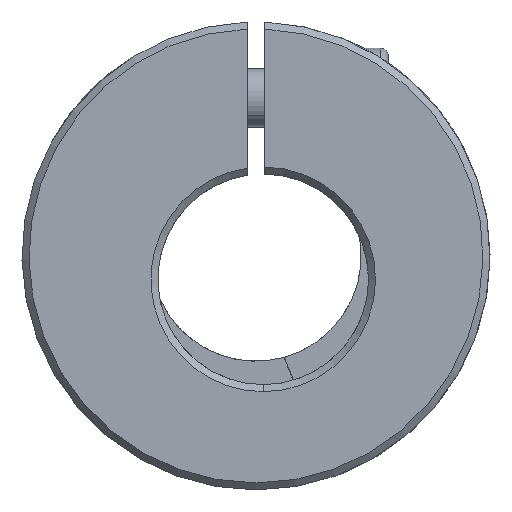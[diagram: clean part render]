
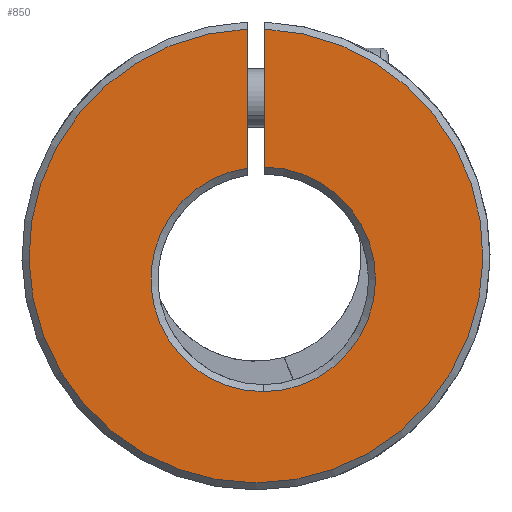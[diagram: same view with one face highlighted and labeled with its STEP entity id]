
A CAD part, front view. The second image highlights one B-rep face of the part: STEP entity #850.
In plain terms, the highlighted planar face has unit normal (0, -1, 0).
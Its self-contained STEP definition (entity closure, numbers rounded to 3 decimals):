
#5 = DIRECTION ( 'NONE',  ( 0., 1., 0. ) ) ;
#132 = CARTESIAN_POINT ( 'NONE',  ( 0.75, -30., -2. ) ) ;
#273 = EDGE_CURVE ( 'NONE', #885, #4253, #5784, .T. ) ;
#382 = DIRECTION ( 'NONE',  ( 0., 0., 1. ) ) ;
#470 = VECTOR ( 'NONE', #2824, 1000. ) ;
#483 = ORIENTED_EDGE ( 'NONE', *, *, #645, .T. ) ;
#534 = DIRECTION ( 'NONE',  ( 0., 1., 0. ) ) ;
#554 = CARTESIAN_POINT ( 'NONE',  ( -0.75, -30., 19.385 ) ) ;
#645 = EDGE_CURVE ( 'NONE', #1019, #885, #3744, .T. ) ;
#850 = ADVANCED_FACE ( 'NONE', ( #3344 ), #2365, .F. ) ;
#885 = VERTEX_POINT ( 'NONE', #5542 ) ;
#1019 = VERTEX_POINT ( 'NONE', #4739 ) ;
#1643 = VERTEX_POINT ( 'NONE', #2166 ) ;
#1931 = AXIS2_PLACEMENT_3D ( 'NONE', #2731, #5, #4017 ) ;
#1944 = EDGE_CURVE ( 'NONE', #1643, #4783, #5516, .T. ) ;
#2053 = ORIENTED_EDGE ( 'NONE', *, *, #3223, .T. ) ;
#2102 = CARTESIAN_POINT ( 'NONE',  ( 0.617, -30., -2. ) ) ;
#2166 = CARTESIAN_POINT ( 'NONE',  ( 0.75, -30., 19.385 ) ) ;
#2365 = PLANE ( 'NONE',  #4505 ) ;
#2576 = DIRECTION ( 'NONE',  ( 0., 0., 1. ) ) ;
#2731 = CARTESIAN_POINT ( 'NONE',  ( 0.617, -30., -2. ) ) ;
#2772 = CIRCLE ( 'NONE', #4351, 19.4 ) ;
#2824 = DIRECTION ( 'NONE',  ( 0., 0., -1. ) ) ;
#3223 = EDGE_CURVE ( 'NONE', #4253, #1643, #2772, .T. ) ;
#3282 = VECTOR ( 'NONE', #2576, 1000. ) ;
#3344 = FACE_OUTER_BOUND ( 'NONE', #5055, .T. ) ;
#3437 = ORIENTED_EDGE ( 'NONE', *, *, #273, .T. ) ;
#3525 = CARTESIAN_POINT ( 'NONE',  ( -0.75, -30., -2. ) ) ;
#3695 = ORIENTED_EDGE ( 'NONE', *, *, #5288, .T. ) ;
#3744 = CIRCLE ( 'NONE', #4215, 9.6 ) ;
#3867 = DIRECTION ( 'NONE',  ( 0., 1., 0. ) ) ;
#4017 = DIRECTION ( 'NONE',  ( 0., 0., 1. ) ) ;
#4215 = AXIS2_PLACEMENT_3D ( 'NONE', #2102, #3867, #382 ) ;
#4253 = VERTEX_POINT ( 'NONE', #554 ) ;
#4314 = CARTESIAN_POINT ( 'NONE',  ( 0.75, -30., 7.599 ) ) ;
#4351 = AXIS2_PLACEMENT_3D ( 'NONE', #5832, #5453, #4538 ) ;
#4505 = AXIS2_PLACEMENT_3D ( 'NONE', #5062, #534, #5120 ) ;
#4538 = DIRECTION ( 'NONE',  ( 0., 0., 1. ) ) ;
#4739 = CARTESIAN_POINT ( 'NONE',  ( 0.617, -30., -11.6 ) ) ;
#4783 = VERTEX_POINT ( 'NONE', #4314 ) ;
#5005 = CIRCLE ( 'NONE', #1931, 9.6 ) ;
#5055 = EDGE_LOOP ( 'NONE', ( #5343, #3695, #483, #3437, #2053 ) ) ;
#5062 = CARTESIAN_POINT ( 'NONE',  ( 0., -30., 0. ) ) ;
#5120 = DIRECTION ( 'NONE',  ( 0., 0., 1. ) ) ;
#5288 = EDGE_CURVE ( 'NONE', #4783, #1019, #5005, .T. ) ;
#5343 = ORIENTED_EDGE ( 'NONE', *, *, #1944, .T. ) ;
#5453 = DIRECTION ( 'NONE',  ( 0., -1., 0. ) ) ;
#5516 = LINE ( 'NONE', #132, #470 ) ;
#5542 = CARTESIAN_POINT ( 'NONE',  ( -0.75, -30., 7.502 ) ) ;
#5784 = LINE ( 'NONE', #3525, #3282 ) ;
#5832 = CARTESIAN_POINT ( 'NONE',  ( 0., -30., 0. ) ) ;
